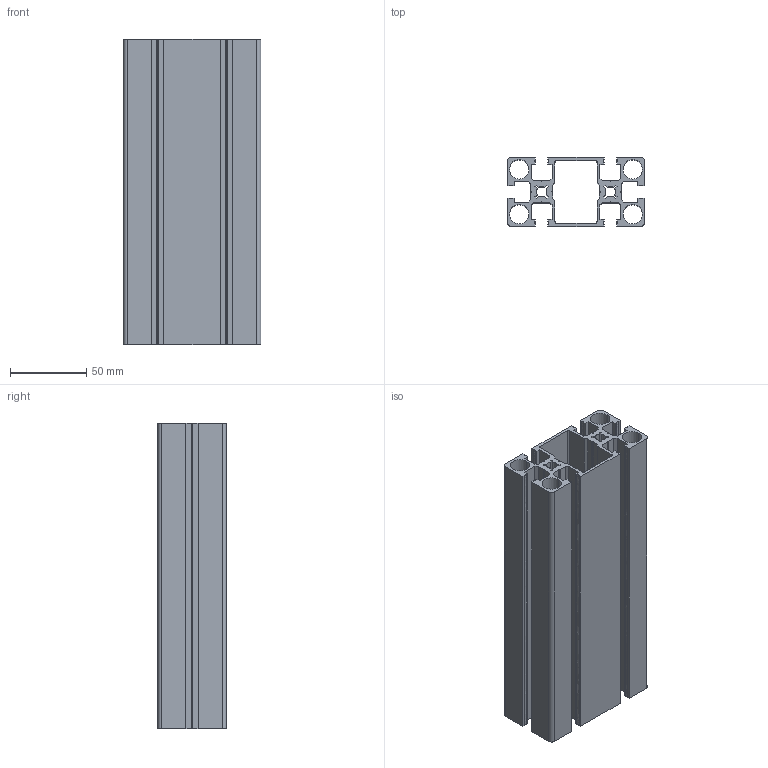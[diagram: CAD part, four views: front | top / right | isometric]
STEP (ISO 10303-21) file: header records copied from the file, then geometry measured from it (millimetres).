
FILE_DESCRIPTION (( 'STEP AP203' ), '1' );
FILE_NAME ('007518 REF 4590L .STEP', '2015-12-01T11:53:11', ( '' ), ( '' ), 'SwSTEP 2.0', 'SolidWorks 2015', '' );
FILE_SCHEMA (( 'CONFIG_CONTROL_DESIGN' ));
Length unit declared in the file: millimetre
Products named in the file (1): 007518 REF 4590L 
Bounding box: 90 x 45 x 200 mm (x, y, z)
Volume: 236083.7 mm3; surface area: 179335.5 mm2
Topology: 1 solids, 1 shells, 186 faces, 552 edges, 368 vertices
Faces by surface type: plane 122, cylinder 52, bspline 12
Entity records: 6389 total; most frequent: CARTESIAN_POINT 1311, ORIENTED_EDGE 1104, DIRECTION 982, EDGE_CURVE 552, LINE 424, VECTOR 424, VERTEX_POINT 368, AXIS2_PLACEMENT_3D 279
